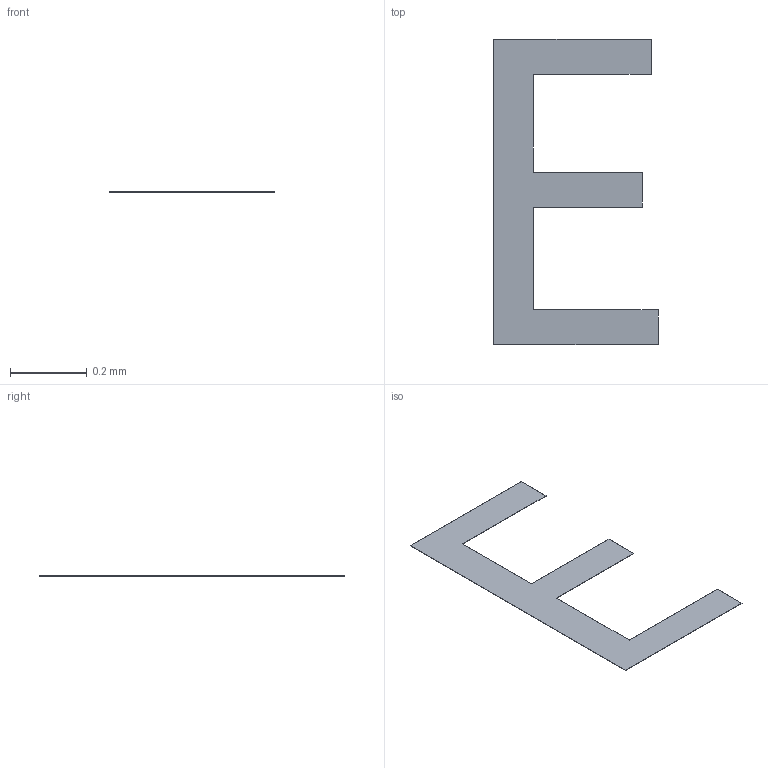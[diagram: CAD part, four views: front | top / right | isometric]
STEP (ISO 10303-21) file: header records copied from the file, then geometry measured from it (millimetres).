
FILE_DESCRIPTION(/* description */ ('STEP AP242 Edition 2','CAx-IF Rec.Pracs.---Representation and Presentation of Product Manufacturing Information (PMI)---4.0---2014-10-13','CAx-IF Rec.Pracs.---3D Tessellated Geometry---0.4---2014-09-14','2;1','CAx-IF Rec.Pracs.---User Defined Attributes---1.5---2016-08-15'),/* implementation_level */ '2;1');
FILE_NAME(/* name */ 'Assembly 1 - I2CLCD16X2~MODULE-TH_LCM1602K~nxQB (11)',/* time_stamp */ '2026-04-02T09:55:14Z',/* author */ (''),/* organization */ (''),/* preprocessor_version */ 'ST-DEVELOPER v20',/* originating_system */ 'ONSHAPE BY PTC INC, 1.212',/* authorisation */ ' ');
FILE_SCHEMA (('AP242_MANAGED_MODEL_BASED_3D_ENGINEERING_MIM_LF { 1 0 10303 442 3 1 4 }'));
Length unit declared in the file: metre
Products named in the file (1): I2CLCD16X2~MODULE-TH_LCM1602K~nxQB
Bounding box: 0.43 x 0.79 x 0 mm (x, y, z)
Volume: 0 mm3; surface area: 0.3 mm2
Topology: 1 solids, 1 shells, 14 faces, 36 edges, 24 vertices
Faces by surface type: plane 14
Entity records: 541 total; most frequent: CARTESIAN_POINT 75, ORIENTED_EDGE 72, DIRECTION 66, EDGE_CURVE 36, LINE 36, VECTOR 36, VERTEX_POINT 24, PRESENTATION_STYLE_ASSIGNMENT 15
